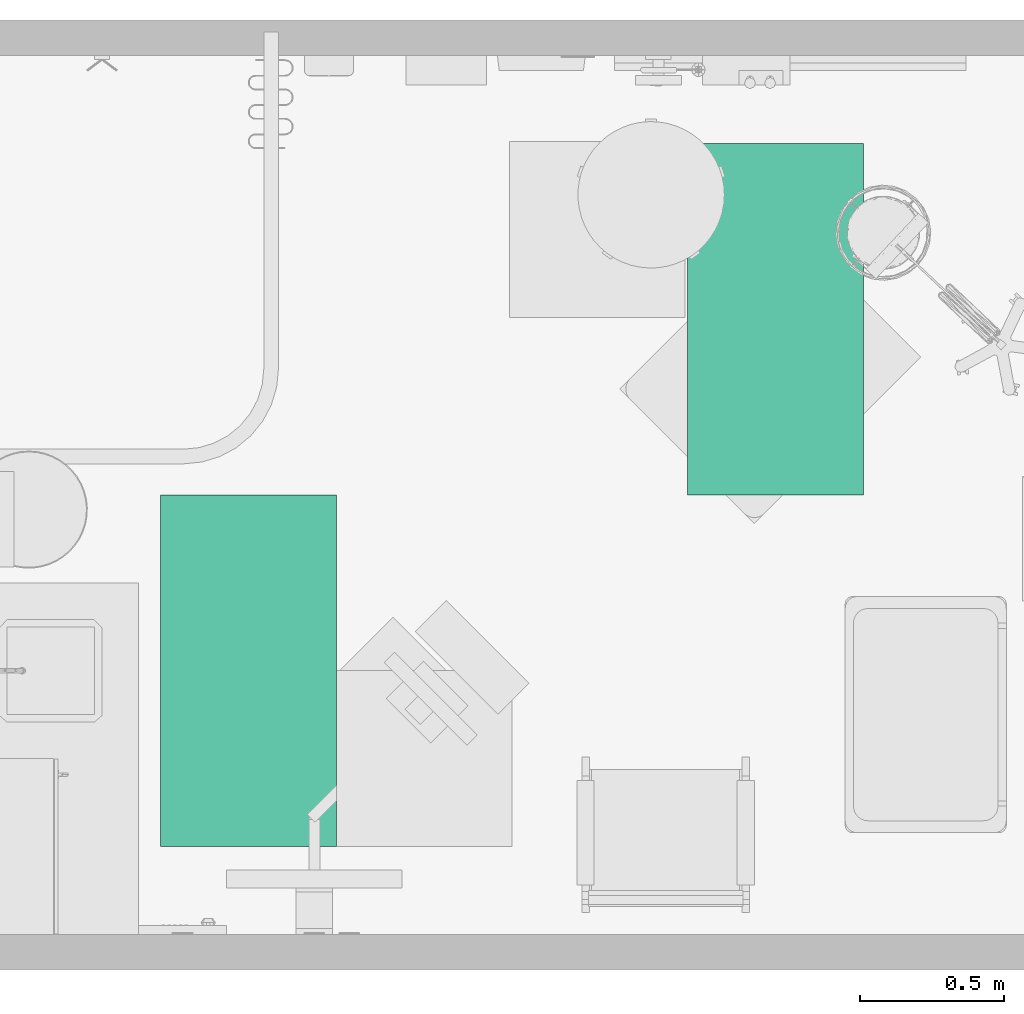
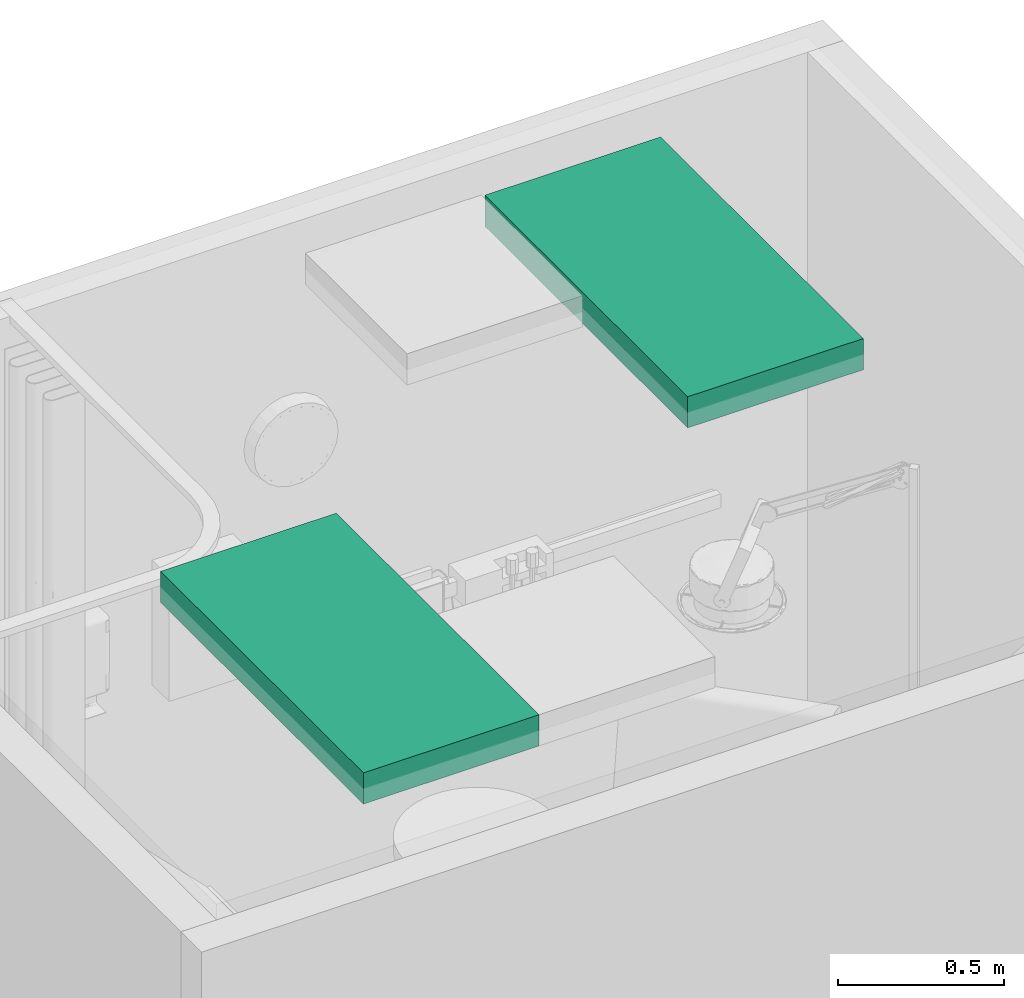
# One storey, part 4 of 9: 2 flow terminals.
"""IFC2X3 building model written with IfcOpenShell, lengths in feet."""

from ifc_helpers import new_model, entity, si_unit, converted_unit, derived_unit, direction, frame, frame_2d, origin, place, context, subcontext, project, spatial, rectangle, extrude, source, transform, mapped, type_object, type_shapes, element, save


model = new_model("IFC2X3")

# Units and contexts
model_context = context("Model", 3, precision=0.0001, world=origin(), true_north=direction((6.12303176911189e-17, 1.0)))
body_context = subcontext(model_context, "Body", "Model", "MODEL_VIEW")
ifc_project = project(units=[converted_unit("LENGTHUNIT", "FOOT", entity("IfcRatioMeasure", 0.3048), si_unit("LENGTHUNIT", "METRE"), dimensions=[1, 0, 0, 0, 0, 0, 0]), converted_unit("AREAUNIT", "SQUARE FOOT", entity("IfcRatioMeasure", 0.09290304), si_unit("AREAUNIT", "SQUARE_METRE"), dimensions=[2, 0, 0, 0, 0, 0, 0]), converted_unit("VOLUMEUNIT", "CUBIC FOOT", entity("IfcRatioMeasure", 0.028316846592), si_unit("VOLUMEUNIT", "CUBIC_METRE"), dimensions=[3, 0, 0, 0, 0, 0, 0]), converted_unit("PLANEANGLEUNIT", "DEGREE", entity("IfcRatioMeasure", 0.0174532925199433), si_unit("PLANEANGLEUNIT", "RADIAN"), dimensions=[0, 0, 0, 0, 0, 0, 0]), si_unit("MASSUNIT", "GRAM", prefix="KILO"), derived_unit("MASSDENSITYUNIT", [(si_unit("MASSUNIT", "GRAM", prefix="KILO"), 1), (si_unit("LENGTHUNIT", "METRE"), -3)]), si_unit("TIMEUNIT", "SECOND"), si_unit("FREQUENCYUNIT", "HERTZ"), si_unit("THERMODYNAMICTEMPERATUREUNIT", "DEGREE_CELSIUS"), derived_unit("THERMALTRANSMITTANCEUNIT", [(si_unit("MASSUNIT", "GRAM", prefix="KILO"), 1), (si_unit("THERMODYNAMICTEMPERATUREUNIT", "KELVIN"), -1), (si_unit("TIMEUNIT", "SECOND"), -3)]), derived_unit("VOLUMETRICFLOWRATEUNIT", [(si_unit("LENGTHUNIT", "METRE"), 3), (si_unit("TIMEUNIT", "SECOND"), -1)]), si_unit("ELECTRICCURRENTUNIT", "AMPERE"), si_unit("ELECTRICVOLTAGEUNIT", "VOLT"), si_unit("POWERUNIT", "WATT"), si_unit("FORCEUNIT", "NEWTON"), si_unit("ILLUMINANCEUNIT", "LUX"), si_unit("LUMINOUSFLUXUNIT", "LUMEN"), si_unit("LUMINOUSINTENSITYUNIT", "CANDELA"), derived_unit("USERDEFINED", [(si_unit("MASSUNIT", "GRAM", prefix="KILO"), -1), (si_unit("LENGTHUNIT", "METRE"), -2), (si_unit("TIMEUNIT", "SECOND"), 3), (si_unit("LUMINOUSFLUXUNIT", "LUMEN"), 1)]), derived_unit("LINEARVELOCITYUNIT", [(si_unit("LENGTHUNIT", "METRE"), 1), (si_unit("TIMEUNIT", "SECOND"), -1)]), si_unit("PRESSUREUNIT", "PASCAL"), derived_unit("USERDEFINED", [(si_unit("LENGTHUNIT", "METRE"), -2), (si_unit("MASSUNIT", "GRAM", prefix="KILO"), 1), (si_unit("TIMEUNIT", "SECOND"), -2)])], contexts=[model_context])

# Site, building, storey, space
site_placement = place(None, origin())
site = spatial("IfcSite", under=ifc_project, at=site_placement, Name="Default", CompositionType="ELEMENT")
building_placement = place(site_placement, origin())
building = spatial("IfcBuilding", under=site, at=building_placement, Name="OUTPATIENT / PACT CLINIC (Ch. 265)", CompositionType="ELEMENT")
storey_placement = place(building_placement, origin())
storey = spatial("IfcBuildingStorey", under=building, at=storey_placement, Name="DATUM", CompositionType="ELEMENT", Elevation=0.0)
space_placement = place(storey_placement, origin())
space = spatial("IfcSpace", under=storey, at=space_placement, Name="WRTM2", CompositionType="ELEMENT", InteriorOrExteriorSpace="INTERNAL")

# Flow terminals
light_fixture_type = type_object("IfcLightFixtureType", Name="2'x4'", PredefinedType="NOTDEFINED")
shared_shape = source(origin(), body_context, "Body", "SweptSolid", [
    extrude(rectangle(XDim=4.00000000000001, YDim=2.0, at=frame_2d((0.0, 1.11022302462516e-16), x_axis=(1.0, 0.0))), frame((-0.0613631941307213, -0.195098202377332, 8.0), z_axis=(0.0, 0.0, 1.0), x_axis=(-1.0, 0.0, 0.0)), (0.0, 0.0, 1.0), 0.375),
])
type_shapes(light_fixture_type, [shared_shape])
for number, where, z_axis, x_axis in (
    (1, (218.76638944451, -855.761941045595, 1.0), (0.0, 0.0, 1.0), (0.0, 1.0, 0.0)),
    (2, (212.76638944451, -859.761941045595, 1.0), (0.0, 0.0, 1.0), (0.0, 1.0, 0.0)),
):
    element("IfcFlowTerminal", number, at=place(space_placement, frame(where, z_axis=z_axis, x_axis=x_axis)), inside=space, type_object=light_fixture_type, Name="Troffer Light:2'x4'", ObjectType="2'x4'", context=body_context, shape_type="MappedRepresentation", body=[
        mapped(shared_shape, transform((0.0, 0.0, 0.0), scale=1.0)),
    ])

save(model, "model.ifc")
